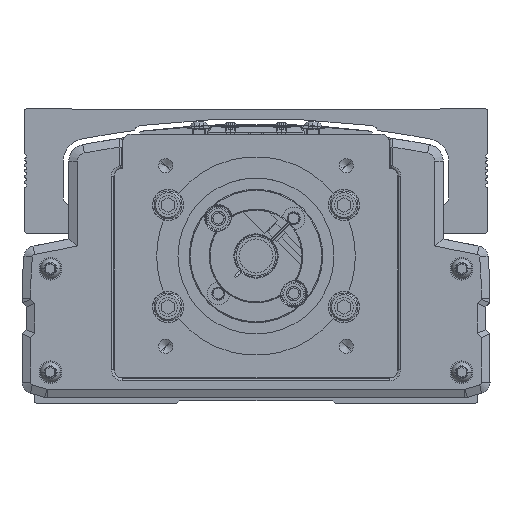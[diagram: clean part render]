
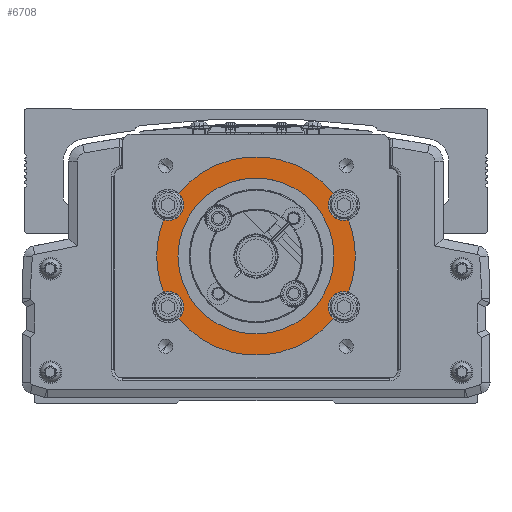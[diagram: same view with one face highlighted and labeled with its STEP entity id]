
A CAD part, front view. The second image highlights one B-rep face of the part: STEP entity #6708.
In plain terms, the highlighted planar face has unit normal (0, -1, 0).
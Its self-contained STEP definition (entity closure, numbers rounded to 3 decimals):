
#6708=ADVANCED_FACE('',(#14860,#14861),#14862,.F.);
#14860=FACE_OUTER_BOUND('',#26537,.T.);
#14861=FACE_BOUND('',#26538,.T.);
#14862=PLANE('',#26539);
#26537=EDGE_LOOP('',(#46944,#46945,#46946,#46947,#46948,#46949,#46950,#46951,#46952,#46953,#46954,#46955,#46956,#46957));
#26538=EDGE_LOOP('',(#46958,#46959));
#26539=AXIS2_PLACEMENT_3D('',#46960,#46961,#46962);
#46944=ORIENTED_EDGE('',*,*,#69079,.F.);
#46945=ORIENTED_EDGE('',*,*,#61838,.T.);
#46946=ORIENTED_EDGE('',*,*,#69080,.T.);
#46947=ORIENTED_EDGE('',*,*,#64254,.F.);
#46948=ORIENTED_EDGE('',*,*,#69081,.F.);
#46949=ORIENTED_EDGE('',*,*,#69082,.T.);
#46950=ORIENTED_EDGE('',*,*,#69083,.F.);
#46951=ORIENTED_EDGE('',*,*,#69084,.F.);
#46952=ORIENTED_EDGE('',*,*,#69085,.T.);
#46953=ORIENTED_EDGE('',*,*,#69086,.T.);
#46954=ORIENTED_EDGE('',*,*,#69087,.F.);
#46955=ORIENTED_EDGE('',*,*,#69088,.F.);
#46956=ORIENTED_EDGE('',*,*,#67101,.T.);
#46957=ORIENTED_EDGE('',*,*,#66252,.F.);
#46958=ORIENTED_EDGE('',*,*,#69089,.F.);
#46959=ORIENTED_EDGE('',*,*,#68363,.F.);
#46960=CARTESIAN_POINT('',(-600.,-246.778,0.));
#46961=DIRECTION('',(0.,1.0,0.));
#46962=DIRECTION('',(-1.0,0.,0.));
#61838=EDGE_CURVE('',#73250,#73247,#73251,.T.);
#64254=EDGE_CURVE('',#77468,#77470,#77471,.T.);
#66252=EDGE_CURVE('',#80720,#80722,#80723,.T.);
#67101=EDGE_CURVE('',#82050,#80722,#82051,.T.);
#68363=EDGE_CURVE('',#83905,#83907,#83908,.T.);
#69079=EDGE_CURVE('',#73250,#80720,#84901,.T.);
#69080=EDGE_CURVE('',#73247,#77470,#84902,.T.);
#69081=EDGE_CURVE('',#84903,#77468,#84904,.T.);
#69082=EDGE_CURVE('',#84903,#84905,#84906,.T.);
#69083=EDGE_CURVE('',#84907,#84905,#84908,.T.);
#69084=EDGE_CURVE('',#84909,#84907,#84910,.T.);
#69085=EDGE_CURVE('',#84909,#84911,#84912,.T.);
#69086=EDGE_CURVE('',#84911,#84913,#84914,.T.);
#69087=EDGE_CURVE('',#84915,#84913,#84916,.T.);
#69088=EDGE_CURVE('',#82050,#84915,#84917,.T.);
#69089=EDGE_CURVE('',#83907,#83905,#84918,.T.);
#73247=VERTEX_POINT('',#89952);
#73250=VERTEX_POINT('',#89956);
#73251=CIRCLE('',#89957,35.0);
#77468=VERTEX_POINT('',#95950);
#77470=VERTEX_POINT('',#95953);
#77471=CIRCLE('',#95954,5.5);
#80720=VERTEX_POINT('',#101108);
#80722=VERTEX_POINT('',#101111);
#80723=CIRCLE('',#101112,5.5);
#82050=VERTEX_POINT('',#103085);
#82051=CIRCLE('',#103086,35.0);
#83905=VERTEX_POINT('',#106117);
#83907=VERTEX_POINT('',#106120);
#83908=CIRCLE('',#106121,27.5);
#84901=CIRCLE('',#107468,5.5);
#84902=CIRCLE('',#107469,35.0);
#84903=VERTEX_POINT('',#107470);
#84904=CIRCLE('',#107471,5.5);
#84905=VERTEX_POINT('',#107472);
#84906=CIRCLE('',#107473,35.0);
#84907=VERTEX_POINT('',#107474);
#84908=CIRCLE('',#107475,5.5);
#84909=VERTEX_POINT('',#107476);
#84910=CIRCLE('',#107477,5.5);
#84911=VERTEX_POINT('',#107478);
#84912=CIRCLE('',#107479,35.0);
#84913=VERTEX_POINT('',#107480);
#84914=CIRCLE('',#107481,35.0);
#84915=VERTEX_POINT('',#107482);
#84916=CIRCLE('',#107483,5.5);
#84917=CIRCLE('',#107484,5.5);
#84918=CIRCLE('',#107485,27.5);
#89952=CARTESIAN_POINT('',(-635.,-246.778,0.));
#89956=CARTESIAN_POINT('',(-632.6,-246.778,12.738));
#89957=AXIS2_PLACEMENT_3D('',#113836,#113837,#113838);
#95950=CARTESIAN_POINT('',(-625.5,-246.778,-18.));
#95953=CARTESIAN_POINT('',(-632.6,-246.778,-12.738));
#95954=AXIS2_PLACEMENT_3D('',#117216,#117217,#117218);
#101108=CARTESIAN_POINT('',(-625.5,-246.778,18.));
#101111=CARTESIAN_POINT('',(-627.223,-246.778,21.998));
#101112=AXIS2_PLACEMENT_3D('',#119953,#119954,#119955);
#103085=CARTESIAN_POINT('',(-572.777,-246.778,21.998));
#103086=AXIS2_PLACEMENT_3D('',#121099,#121100,#121101);
#106117=CARTESIAN_POINT('',(-627.5,-246.778,0.));
#106120=CARTESIAN_POINT('',(-572.5,-246.778,0.));
#106121=AXIS2_PLACEMENT_3D('',#122675,#122676,#122677);
#107468=AXIS2_PLACEMENT_3D('',#123644,#123645,#123646);
#107469=AXIS2_PLACEMENT_3D('',#123647,#123648,#123649);
#107470=CARTESIAN_POINT('',(-627.223,-246.778,-21.998));
#107471=AXIS2_PLACEMENT_3D('',#123650,#123651,#123652);
#107472=CARTESIAN_POINT('',(-572.777,-246.778,-21.998));
#107473=AXIS2_PLACEMENT_3D('',#123653,#123654,#123655);
#107474=CARTESIAN_POINT('',(-574.5,-246.778,-18.));
#107475=AXIS2_PLACEMENT_3D('',#123656,#123657,#123658);
#107476=CARTESIAN_POINT('',(-567.4,-246.778,-12.738));
#107477=AXIS2_PLACEMENT_3D('',#123659,#123660,#123661);
#107478=CARTESIAN_POINT('',(-565.,-246.778,0.));
#107479=AXIS2_PLACEMENT_3D('',#123662,#123663,#123664);
#107480=CARTESIAN_POINT('',(-567.4,-246.778,12.738));
#107481=AXIS2_PLACEMENT_3D('',#123665,#123666,#123667);
#107482=CARTESIAN_POINT('',(-574.5,-246.778,18.));
#107483=AXIS2_PLACEMENT_3D('',#123668,#123669,#123670);
#107484=AXIS2_PLACEMENT_3D('',#123671,#123672,#123673);
#107485=AXIS2_PLACEMENT_3D('',#123674,#123675,#123676);
#113836=CARTESIAN_POINT('',(-600.,-246.778,0.));
#113837=DIRECTION('',(0.,-1.0,0.));
#113838=DIRECTION('',(-1.0,0.,0.));
#117216=CARTESIAN_POINT('',(-631.,-246.778,-18.));
#117217=DIRECTION('',(0.,-1.0,0.));
#117218=DIRECTION('',(-1.0,0.,0.));
#119953=CARTESIAN_POINT('',(-631.,-246.778,18.));
#119954=DIRECTION('',(0.,-1.0,0.));
#119955=DIRECTION('',(-1.0,0.,0.));
#121099=CARTESIAN_POINT('',(-600.,-246.778,0.));
#121100=DIRECTION('',(0.,-1.0,0.));
#121101=DIRECTION('',(-1.0,0.,0.));
#122675=CARTESIAN_POINT('',(-600.,-246.778,0.));
#122676=DIRECTION('',(0.,-1.0,0.));
#122677=DIRECTION('',(-1.0,0.,0.));
#123644=CARTESIAN_POINT('',(-631.,-246.778,18.));
#123645=DIRECTION('',(0.,-1.0,0.));
#123646=DIRECTION('',(-1.0,0.,0.));
#123647=CARTESIAN_POINT('',(-600.,-246.778,0.));
#123648=DIRECTION('',(0.,-1.0,0.));
#123649=DIRECTION('',(-1.0,0.,0.));
#123650=CARTESIAN_POINT('',(-631.,-246.778,-18.));
#123651=DIRECTION('',(0.,-1.0,0.));
#123652=DIRECTION('',(-1.0,0.,0.));
#123653=CARTESIAN_POINT('',(-600.,-246.778,0.));
#123654=DIRECTION('',(0.,-1.0,0.));
#123655=DIRECTION('',(-1.0,0.,0.));
#123656=CARTESIAN_POINT('',(-569.,-246.778,-18.));
#123657=DIRECTION('',(0.,-1.0,0.));
#123658=DIRECTION('',(1.0,0.,0.));
#123659=CARTESIAN_POINT('',(-569.,-246.778,-18.));
#123660=DIRECTION('',(0.,-1.0,0.));
#123661=DIRECTION('',(1.0,0.,0.));
#123662=CARTESIAN_POINT('',(-600.,-246.778,0.));
#123663=DIRECTION('',(0.,-1.0,0.));
#123664=DIRECTION('',(-1.0,0.,0.));
#123665=CARTESIAN_POINT('',(-600.,-246.778,0.));
#123666=DIRECTION('',(0.,-1.0,0.));
#123667=DIRECTION('',(-1.0,0.,0.));
#123668=CARTESIAN_POINT('',(-569.,-246.778,18.));
#123669=DIRECTION('',(0.,-1.0,0.));
#123670=DIRECTION('',(1.0,0.,0.));
#123671=CARTESIAN_POINT('',(-569.,-246.778,18.));
#123672=DIRECTION('',(0.,-1.0,0.));
#123673=DIRECTION('',(1.0,0.,0.));
#123674=CARTESIAN_POINT('',(-600.,-246.778,0.));
#123675=DIRECTION('',(0.,-1.0,0.));
#123676=DIRECTION('',(-1.0,0.,0.));
